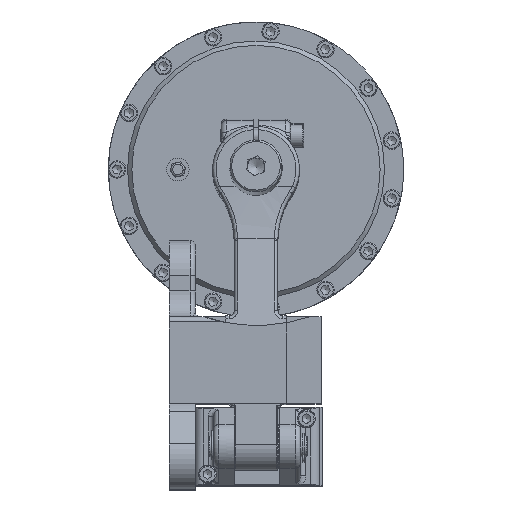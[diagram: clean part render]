
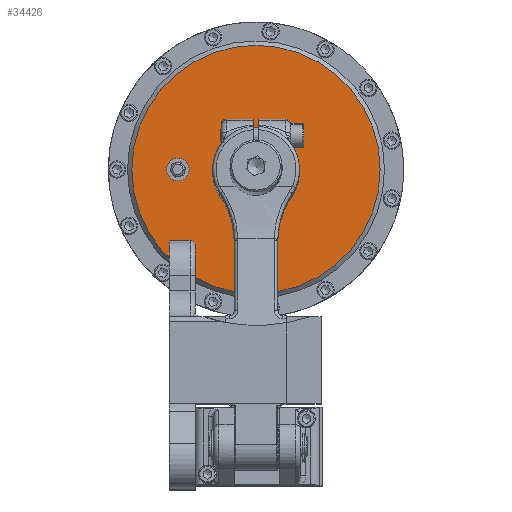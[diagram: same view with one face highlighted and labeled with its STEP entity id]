
A CAD part, top view. The second image highlights one B-rep face of the part: STEP entity #34426.
In plain terms, the highlighted planar face has unit normal (0, 0, 1).
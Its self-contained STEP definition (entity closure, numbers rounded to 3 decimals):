
#1195=FACE_BOUND('',#6646,.T.);
#1196=FACE_BOUND('',#6647,.T.);
#2752=CIRCLE('',#37087,15.);
#2755=CIRCLE('',#37092,6.5);
#2756=CIRCLE('',#37093,6.5);
#2762=CIRCLE('',#37102,71.5);
#2763=CIRCLE('',#37104,24.732);
#4684=FACE_OUTER_BOUND('',#6645,.T.);
#6645=EDGE_LOOP('',(#26114));
#6646=EDGE_LOOP('',(#26115,#26116,#26117,#26118));
#6647=EDGE_LOOP('',(#26119,#26120));
#8113=LINE('',#71883,#9786);
#8114=LINE('',#71885,#9787);
#9786=VECTOR('',#42845,10.);
#9787=VECTOR('',#42846,10.);
#13938=VERTEX_POINT('',#71827);
#13943=VERTEX_POINT('',#71838);
#13952=VERTEX_POINT('',#71859);
#13953=VERTEX_POINT('',#71860);
#13959=VERTEX_POINT('',#71878);
#13960=VERTEX_POINT('',#71882);
#13961=VERTEX_POINT('',#71884);
#18267=EDGE_CURVE('',#13938,#13943,#2752,.T.);
#18276=EDGE_CURVE('',#13952,#13953,#2755,.T.);
#18277=EDGE_CURVE('',#13953,#13952,#2756,.T.);
#18286=EDGE_CURVE('',#13959,#13959,#2762,.T.);
#18287=EDGE_CURVE('',#13938,#13960,#8113,.T.);
#18288=EDGE_CURVE('',#13961,#13943,#8114,.T.);
#18289=EDGE_CURVE('',#13960,#13961,#2763,.T.);
#26114=ORIENTED_EDGE('',*,*,#18286,.F.);
#26115=ORIENTED_EDGE('',*,*,#18287,.F.);
#26116=ORIENTED_EDGE('',*,*,#18267,.T.);
#26117=ORIENTED_EDGE('',*,*,#18288,.F.);
#26118=ORIENTED_EDGE('',*,*,#18289,.F.);
#26119=ORIENTED_EDGE('',*,*,#18276,.T.);
#26120=ORIENTED_EDGE('',*,*,#18277,.T.);
#31200=PLANE('',#37103);
#34426=ADVANCED_FACE('',(#4684,#1195,#1196),#31200,.T.);
#37087=AXIS2_PLACEMENT_3D('',#71840,#42802,#42803);
#37092=AXIS2_PLACEMENT_3D('',#71861,#42818,#42819);
#37093=AXIS2_PLACEMENT_3D('',#71862,#42820,#42821);
#37102=AXIS2_PLACEMENT_3D('',#71880,#42841,#42842);
#37103=AXIS2_PLACEMENT_3D('',#71881,#42843,#42844);
#37104=AXIS2_PLACEMENT_3D('',#71886,#42847,#42848);
#42802=DIRECTION('center_axis',(0.,0.,
-1.));
#42803=DIRECTION('ref_axis',(1.,0.,0.));
#42818=DIRECTION('center_axis',(0.,0.,
-1.));
#42819=DIRECTION('ref_axis',(0.,-1.,0.));
#42820=DIRECTION('center_axis',(0.,0.,
-1.));
#42821=DIRECTION('ref_axis',(0.,-1.,0.));
#42841=DIRECTION('center_axis',(0.,0.,
-1.));
#42842=DIRECTION('ref_axis',(-1.,0.,0.));
#42843=DIRECTION('center_axis',(0.,0.,
1.));
#42844=DIRECTION('ref_axis',(0.,-1.,0.));
#42845=DIRECTION('',(0.,1.,0.));
#42846=DIRECTION('',(0.,-1.,0.));
#42847=DIRECTION('center_axis',(0.,0.,
1.));
#42848=DIRECTION('ref_axis',(-1.,0.,0.));
#71827=CARTESIAN_POINT('',(48.5,149.925,-44.5));
#71838=CARTESIAN_POINT('',(51.5,149.925,-44.5));
#71840=CARTESIAN_POINT('Origin',(50.,135.,-44.5));
#71859=CARTESIAN_POINT('',(5.,128.5,-44.5));
#71860=CARTESIAN_POINT('',(5.,141.5,-44.5));
#71861=CARTESIAN_POINT('Origin',(5.,135.,-44.5));
#71862=CARTESIAN_POINT('Origin',(5.,135.,-44.5));
#71878=CARTESIAN_POINT('',(121.5,135.,-44.5));
#71880=CARTESIAN_POINT('Origin',(50.,135.,-44.5));
#71881=CARTESIAN_POINT('Origin',(94.5,135.,-44.5));
#71882=CARTESIAN_POINT('',(48.5,159.687,-44.5));
#71883=CARTESIAN_POINT('',(48.5,140.581,-44.5));
#71884=CARTESIAN_POINT('',(51.5,159.687,-44.5));
#71885=CARTESIAN_POINT('',(51.5,151.384,-44.5));
#71886=CARTESIAN_POINT('Origin',(50.,135.,-44.5));
